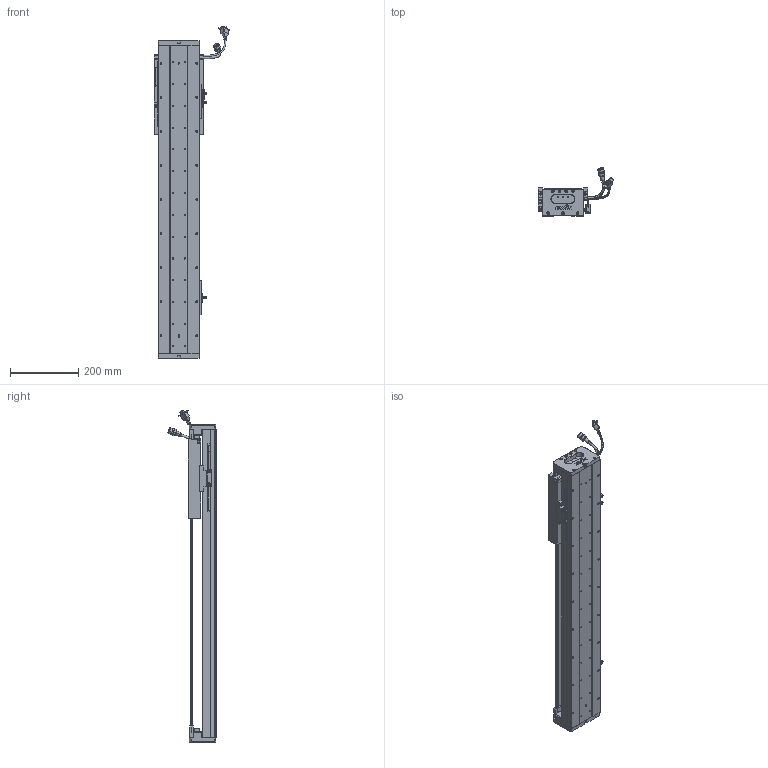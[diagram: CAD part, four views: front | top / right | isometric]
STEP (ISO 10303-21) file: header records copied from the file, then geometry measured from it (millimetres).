
FILE_DESCRIPTION (( 'STEP AP203' ), '1' );
FILE_NAME ('Z3-RY120D-1-L500-B-K.SLDASM_0600.step', '2021-05-17T05:46:12', ( '盈信电脑' ), ( '东莞市道滘镇水果街19号' ), 'SwSTEP 2.0', 'SolidWorks 2016', '' );
FILE_SCHEMA (( 'CONFIG_CONTROL_DESIGN' ));
Length unit declared in the file: millimetre
Products named in the file (37): HARNESS-Part-1; SEAL; RY100FB-遵嫖萇覜茼え; HOLDER0; 080黍杅芛假蚾釱21遴; SEAL-Part-1; 672嫖萇羲壽假蚾釱; 120-Z-臏賑輸盄裔(21遴); SCALE; SCREW-M1.6; Z-120詩湍傷裔啣; SCREW-M1.7; 140雄赽晤鎢ん堤盄; Z3-RY120-L500詩湍100mm遵_0600; SCREW-M1.7-1; Z-RY120D詩湍奻揤裔; LABEL-Part-1; PSLH080_PSLF2; SCREW-M1.6-2; COVER; LABEL; PBU_SHEET; SCALE-Part-2; 140蚥薯蝶輸; SCREW-M1.6-1; SHIELDPLATE; SCREW-M1.6-3; SCALE-Part-1; 覜茼ん672; Z3-RY120铝滑块（21款）; Z-RY120D詩湍狟揤裔; 榋妏寠巭燃_暯_M2_2; HARNESS-Part-2; Z3-RY120-500-倰第菁釱_0600; HARNESS; Z3-RY120D-1-L500-B-K.SLDASM_0600; COVER-Part-1
Assembly tree (43 placements, depth 4):
  Z3-RY120D-1-L500-B-K.SLDASM_0600
    Z3-RY120-500-倰第菁釱_0600
    覜茼ん672  x3
    672嫖萇羲壽假蚾釱  x2
    Z3-RY120铝滑块（21款）
    PSLH080_PSLF2
      SCALE
        SCALE-Part-1
        SCALE-Part-2
      HARNESS
        HARNESS-Part-1
        HARNESS-Part-2
      LABEL
        LABEL-Part-1
      COVER
        COVER-Part-1
      SEAL
        SEAL-Part-1
      榋妏寠巭燃_暯_M2_2
      SHIELDPLATE
      SCREW-M1.7
      SCREW-M1.7-1
      PBU_SHEET
      SCREW-M1.6
      SCREW-M1.6-1
      SCREW-M1.6-2
      SCREW-M1.6-3
      HOLDER0
    080黍杅芛假蚾釱21遴
    120-Z-臏賑輸盄裔(21遴)
    140雄赽晤鎢ん堤盄
    140蚥薯蝶輸  x2
    RY100FB-遵嫖萇覜茼え
    Z-120詩湍傷裔啣  x2
    Z-RY120D詩湍奻揤裔  x2
    Z-RY120D詩湍狟揤裔  x2
    Z3-RY120-L500詩湍100mm遵_0600
Bounding box: 222.88 x 140.94 x 974 mm (x, y, z)
Volume: 2864574.5 mm3; surface area: 942313.4 mm2
Topology: 38 solids, 38 shells, 2745 faces, 7375 edges, 4658 vertices
Faces by surface type: cylinder 1241, plane 1112, cone 270, torus 69, bspline 53
Entity records: 81510 total; most frequent: CARTESIAN_POINT 21387, ORIENTED_EDGE 11734, DIRECTION 11623, EDGE_CURVE 5867, AXIS2_PLACEMENT_3D 4248, VERTEX_POINT 3778, VECTOR 3127, LINE 3127
